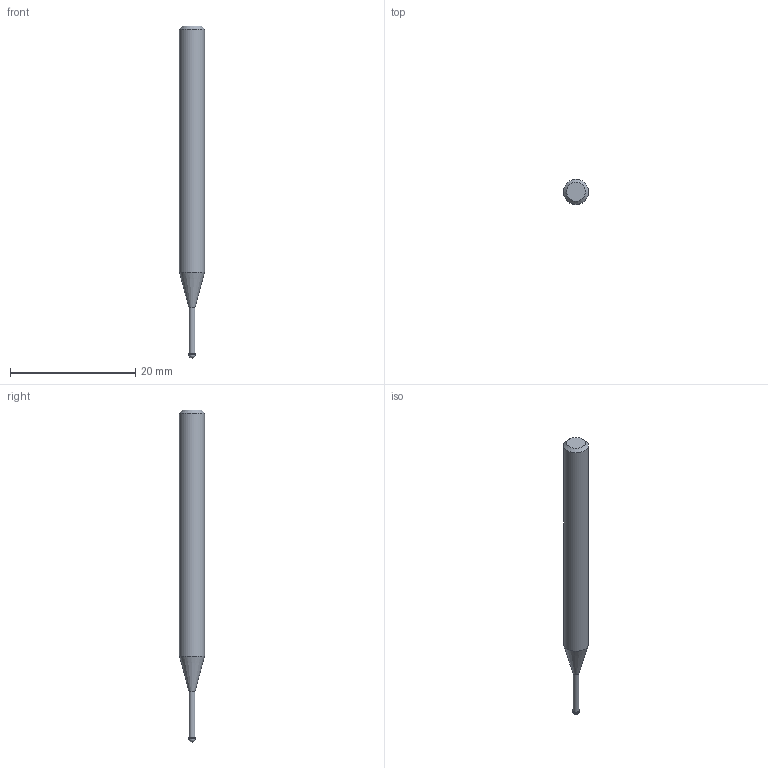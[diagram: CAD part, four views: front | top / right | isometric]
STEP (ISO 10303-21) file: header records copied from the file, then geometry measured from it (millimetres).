
FILE_DESCRIPTION((''),'2;1');
FILE_NAME('C:\Users\nsx150\AppData\Local\Temp\Mastercam 2021\LJSIDMOTM8\TEMP.step','2021-08-03T14:24:06',(''),(''),'STEP Write','Mastercam 2021 ... CNC Software, Inc.','');
FILE_SCHEMA(('AUTOMOTIVE_DESIGN'));
Length unit declared in the file: millimetre
Products named in the file (1): None
Bounding box: 4 x 4 x 53 mm (x, y, z)
Volume: 529 mm3; surface area: 573.8 mm2
Topology: 2 solids, 2 shells, 9 faces, 14 edges, 8 vertices
Faces by surface type: plane 3, cylinder 3, cone 2, sphere 1
Full cylindrical faces by diameter (mm): 0.95 x1, 1 x1, 4 x1
Entity records: 211 total; most frequent: DIRECTION 36, CARTESIAN_POINT 25, AXIS2_PLACEMENT_3D 18, ORIENTED_EDGE 14, EDGE_LOOP 14, STYLED_ITEM 12, ADVANCED_FACE 9, FACE_BOUND 8
